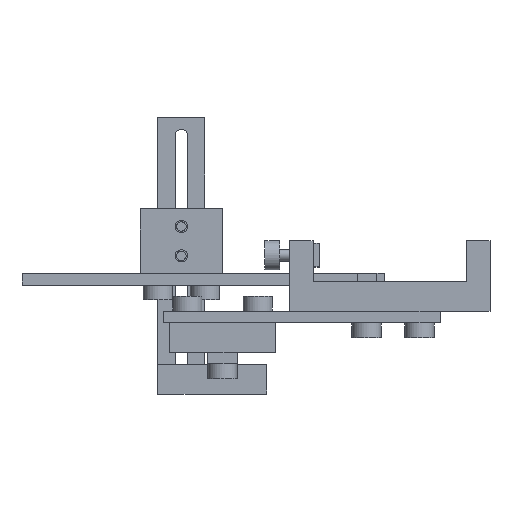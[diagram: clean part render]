
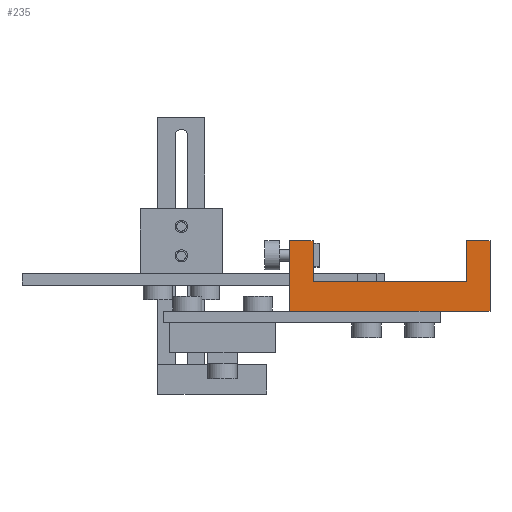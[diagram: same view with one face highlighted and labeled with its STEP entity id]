
A CAD part, top view. The second image highlights one B-rep face of the part: STEP entity #235.
In plain terms, the highlighted planar face has unit normal (0, 0, 1).
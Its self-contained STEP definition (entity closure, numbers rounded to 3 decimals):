
#119 = EDGE_CURVE('',#120,#122,#124,.T.);
#120 = VERTEX_POINT('',#121);
#121 = CARTESIAN_POINT('',(33.,-10.,125.));
#122 = VERTEX_POINT('',#123);
#123 = CARTESIAN_POINT('',(33.,14.,125.));
#124 = SURFACE_CURVE('',#125,(#129,#141),.PCURVE_S1.);
#125 = LINE('',#126,#127);
#126 = CARTESIAN_POINT('',(33.,-10.,125.));
#127 = VECTOR('',#128,1.);
#128 = DIRECTION('',(-0.,1.,-0.));
#129 = PCURVE('',#130,#135);
#130 = PLANE('',#131);
#131 = AXIS2_PLACEMENT_3D('',#132,#133,#134);
#132 = CARTESIAN_POINT('',(33.,-10.,115.));
#133 = DIRECTION('',(-1.,-0.,-0.));
#134 = DIRECTION('',(0.,0.,-1.));
#135 = DEFINITIONAL_REPRESENTATION('',(#136),#140);
#136 = LINE('',#137,#138);
#137 = CARTESIAN_POINT('',(-10.,-0.));
#138 = VECTOR('',#139,1.);
#139 = DIRECTION('',(-0.,-1.));
#140 = ( GEOMETRIC_REPRESENTATION_CONTEXT(2)
PARAMETRIC_REPRESENTATION_CONTEXT() REPRESENTATION_CONTEXT('2D SPACE',''
  ) );
#141 = PCURVE('',#142,#147);
#142 = PLANE('',#143);
#143 = AXIS2_PLACEMENT_3D('',#144,#145,#146);
#144 = CARTESIAN_POINT('',(33.,-10.,125.));
#145 = DIRECTION('',(-0.,-0.,1.));
#146 = DIRECTION('',(1.,0.,0.));
#147 = DEFINITIONAL_REPRESENTATION('',(#148),#152);
#148 = LINE('',#149,#150);
#149 = CARTESIAN_POINT('',(0.,-0.));
#150 = VECTOR('',#151,1.);
#151 = DIRECTION('',(-0.,1.));
#152 = ( GEOMETRIC_REPRESENTATION_CONTEXT(2)
PARAMETRIC_REPRESENTATION_CONTEXT() REPRESENTATION_CONTEXT('2D SPACE',''
  ) );
#170 = PLANE('',#171);
#171 = AXIS2_PLACEMENT_3D('',#172,#173,#174);
#172 = CARTESIAN_POINT('',(33.,-10.,115.));
#173 = DIRECTION('',(-0.,1.,0.));
#174 = DIRECTION('',(0.,0.,-1.));
#224 = PLANE('',#225);
#225 = AXIS2_PLACEMENT_3D('',#226,#227,#228);
#226 = CARTESIAN_POINT('',(33.,14.,115.));
#227 = DIRECTION('',(-0.,1.,0.));
#228 = DIRECTION('',(0.,0.,-1.));
#235 = ADVANCED_FACE('',(#236),#142,.T.);
#236 = FACE_BOUND('',#237,.F.);
#237 = EDGE_LOOP('',(#238,#239,#262,#290,#318,#346,#374,#402));
#238 = ORIENTED_EDGE('',*,*,#119,.F.);
#239 = ORIENTED_EDGE('',*,*,#240,.T.);
#240 = EDGE_CURVE('',#120,#241,#243,.T.);
#241 = VERTEX_POINT('',#242);
#242 = CARTESIAN_POINT('',(-35.2,-10.,125.));
#243 = SURFACE_CURVE('',#244,(#248,#255),.PCURVE_S1.);
#244 = LINE('',#245,#246);
#245 = CARTESIAN_POINT('',(33.,-10.,125.));
#246 = VECTOR('',#247,1.);
#247 = DIRECTION('',(-1.,-0.,0.));
#248 = PCURVE('',#142,#249);
#249 = DEFINITIONAL_REPRESENTATION('',(#250),#254);
#250 = LINE('',#251,#252);
#251 = CARTESIAN_POINT('',(0.,-0.));
#252 = VECTOR('',#253,1.);
#253 = DIRECTION('',(-1.,0.));
#254 = ( GEOMETRIC_REPRESENTATION_CONTEXT(2)
PARAMETRIC_REPRESENTATION_CONTEXT() REPRESENTATION_CONTEXT('2D SPACE',''
  ) );
#255 = PCURVE('',#170,#256);
#256 = DEFINITIONAL_REPRESENTATION('',(#257),#261);
#257 = LINE('',#258,#259);
#258 = CARTESIAN_POINT('',(-10.,-0.));
#259 = VECTOR('',#260,1.);
#260 = DIRECTION('',(-0.,1.));
#261 = ( GEOMETRIC_REPRESENTATION_CONTEXT(2)
PARAMETRIC_REPRESENTATION_CONTEXT() REPRESENTATION_CONTEXT('2D SPACE',''
  ) );
#262 = ORIENTED_EDGE('',*,*,#263,.T.);
#263 = EDGE_CURVE('',#241,#264,#266,.T.);
#264 = VERTEX_POINT('',#265);
#265 = CARTESIAN_POINT('',(-35.2,14.,125.));
#266 = SURFACE_CURVE('',#267,(#271,#278),.PCURVE_S1.);
#267 = LINE('',#268,#269);
#268 = CARTESIAN_POINT('',(-35.2,-10.,125.));
#269 = VECTOR('',#270,1.);
#270 = DIRECTION('',(-0.,1.,-0.));
#271 = PCURVE('',#142,#272);
#272 = DEFINITIONAL_REPRESENTATION('',(#273),#277);
#273 = LINE('',#274,#275);
#274 = CARTESIAN_POINT('',(-68.2,0.));
#275 = VECTOR('',#276,1.);
#276 = DIRECTION('',(-0.,1.));
#277 = ( GEOMETRIC_REPRESENTATION_CONTEXT(2)
PARAMETRIC_REPRESENTATION_CONTEXT() REPRESENTATION_CONTEXT('2D SPACE',''
  ) );
#278 = PCURVE('',#279,#284);
#279 = PLANE('',#280);
#280 = AXIS2_PLACEMENT_3D('',#281,#282,#283);
#281 = CARTESIAN_POINT('',(-35.2,-10.,115.));
#282 = DIRECTION('',(-1.,-0.,-0.));
#283 = DIRECTION('',(0.,0.,-1.));
#284 = DEFINITIONAL_REPRESENTATION('',(#285),#289);
#285 = LINE('',#286,#287);
#286 = CARTESIAN_POINT('',(-10.,-0.));
#287 = VECTOR('',#288,1.);
#288 = DIRECTION('',(-0.,-1.));
#289 = ( GEOMETRIC_REPRESENTATION_CONTEXT(2)
PARAMETRIC_REPRESENTATION_CONTEXT() REPRESENTATION_CONTEXT('2D SPACE',''
  ) );
#290 = ORIENTED_EDGE('',*,*,#291,.F.);
#291 = EDGE_CURVE('',#292,#264,#294,.T.);
#292 = VERTEX_POINT('',#293);
#293 = CARTESIAN_POINT('',(-27.2,14.,125.));
#294 = SURFACE_CURVE('',#295,(#299,#306),.PCURVE_S1.);
#295 = LINE('',#296,#297);
#296 = CARTESIAN_POINT('',(-27.2,14.,125.));
#297 = VECTOR('',#298,1.);
#298 = DIRECTION('',(-1.,-0.,0.));
#299 = PCURVE('',#142,#300);
#300 = DEFINITIONAL_REPRESENTATION('',(#301),#305);
#301 = LINE('',#302,#303);
#302 = CARTESIAN_POINT('',(-60.2,24.));
#303 = VECTOR('',#304,1.);
#304 = DIRECTION('',(-1.,0.));
#305 = ( GEOMETRIC_REPRESENTATION_CONTEXT(2)
PARAMETRIC_REPRESENTATION_CONTEXT() REPRESENTATION_CONTEXT('2D SPACE',''
  ) );
#306 = PCURVE('',#307,#312);
#307 = PLANE('',#308);
#308 = AXIS2_PLACEMENT_3D('',#309,#310,#311);
#309 = CARTESIAN_POINT('',(-27.2,14.,115.));
#310 = DIRECTION('',(-0.,1.,0.));
#311 = DIRECTION('',(0.,0.,-1.));
#312 = DEFINITIONAL_REPRESENTATION('',(#313),#317);
#313 = LINE('',#314,#315);
#314 = CARTESIAN_POINT('',(-10.,-0.));
#315 = VECTOR('',#316,1.);
#316 = DIRECTION('',(-0.,1.));
#317 = ( GEOMETRIC_REPRESENTATION_CONTEXT(2)
PARAMETRIC_REPRESENTATION_CONTEXT() REPRESENTATION_CONTEXT('2D SPACE',''
  ) );
#318 = ORIENTED_EDGE('',*,*,#319,.F.);
#319 = EDGE_CURVE('',#320,#292,#322,.T.);
#320 = VERTEX_POINT('',#321);
#321 = CARTESIAN_POINT('',(-27.2,0.,125.));
#322 = SURFACE_CURVE('',#323,(#327,#334),.PCURVE_S1.);
#323 = LINE('',#324,#325);
#324 = CARTESIAN_POINT('',(-27.2,-0.5,125.));
#325 = VECTOR('',#326,1.);
#326 = DIRECTION('',(-0.,1.,0.));
#327 = PCURVE('',#142,#328);
#328 = DEFINITIONAL_REPRESENTATION('',(#329),#333);
#329 = LINE('',#330,#331);
#330 = CARTESIAN_POINT('',(-60.2,9.5));
#331 = VECTOR('',#332,1.);
#332 = DIRECTION('',(0.,1.));
#333 = ( GEOMETRIC_REPRESENTATION_CONTEXT(2)
PARAMETRIC_REPRESENTATION_CONTEXT() REPRESENTATION_CONTEXT('2D SPACE',''
  ) );
#334 = PCURVE('',#335,#340);
#335 = PLANE('',#336);
#336 = AXIS2_PLACEMENT_3D('',#337,#338,#339);
#337 = CARTESIAN_POINT('',(-27.2,-0.5,115.));
#338 = DIRECTION('',(-1.,-0.,0.));
#339 = DIRECTION('',(0.,0.,-1.));
#340 = DEFINITIONAL_REPRESENTATION('',(#341),#345);
#341 = LINE('',#342,#343);
#342 = CARTESIAN_POINT('',(-10.,-0.));
#343 = VECTOR('',#344,1.);
#344 = DIRECTION('',(-0.,-1.));
#345 = ( GEOMETRIC_REPRESENTATION_CONTEXT(2)
PARAMETRIC_REPRESENTATION_CONTEXT() REPRESENTATION_CONTEXT('2D SPACE',''
  ) );
#346 = ORIENTED_EDGE('',*,*,#347,.F.);
#347 = EDGE_CURVE('',#348,#320,#350,.T.);
#348 = VERTEX_POINT('',#349);
#349 = CARTESIAN_POINT('',(25.,0.,125.));
#350 = SURFACE_CURVE('',#351,(#355,#362),.PCURVE_S1.);
#351 = LINE('',#352,#353);
#352 = CARTESIAN_POINT('',(33.,0.,125.));
#353 = VECTOR('',#354,1.);
#354 = DIRECTION('',(-1.,-0.,0.));
#355 = PCURVE('',#142,#356);
#356 = DEFINITIONAL_REPRESENTATION('',(#357),#361);
#357 = LINE('',#358,#359);
#358 = CARTESIAN_POINT('',(0.,10.));
#359 = VECTOR('',#360,1.);
#360 = DIRECTION('',(-1.,0.));
#361 = ( GEOMETRIC_REPRESENTATION_CONTEXT(2)
PARAMETRIC_REPRESENTATION_CONTEXT() REPRESENTATION_CONTEXT('2D SPACE',''
  ) );
#362 = PCURVE('',#363,#368);
#363 = PLANE('',#364);
#364 = AXIS2_PLACEMENT_3D('',#365,#366,#367);
#365 = CARTESIAN_POINT('',(33.,0.,115.));
#366 = DIRECTION('',(-0.,1.,0.));
#367 = DIRECTION('',(0.,0.,-1.));
#368 = DEFINITIONAL_REPRESENTATION('',(#369),#373);
#369 = LINE('',#370,#371);
#370 = CARTESIAN_POINT('',(-10.,-0.));
#371 = VECTOR('',#372,1.);
#372 = DIRECTION('',(-0.,1.));
#373 = ( GEOMETRIC_REPRESENTATION_CONTEXT(2)
PARAMETRIC_REPRESENTATION_CONTEXT() REPRESENTATION_CONTEXT('2D SPACE',''
  ) );
#374 = ORIENTED_EDGE('',*,*,#375,.T.);
#375 = EDGE_CURVE('',#348,#376,#378,.T.);
#376 = VERTEX_POINT('',#377);
#377 = CARTESIAN_POINT('',(25.,14.,125.));
#378 = SURFACE_CURVE('',#379,(#383,#390),.PCURVE_S1.);
#379 = LINE('',#380,#381);
#380 = CARTESIAN_POINT('',(25.,-0.5,125.));
#381 = VECTOR('',#382,1.);
#382 = DIRECTION('',(-0.,1.,0.));
#383 = PCURVE('',#142,#384);
#384 = DEFINITIONAL_REPRESENTATION('',(#385),#389);
#385 = LINE('',#386,#387);
#386 = CARTESIAN_POINT('',(-8.,9.5));
#387 = VECTOR('',#388,1.);
#388 = DIRECTION('',(0.,1.));
#389 = ( GEOMETRIC_REPRESENTATION_CONTEXT(2)
PARAMETRIC_REPRESENTATION_CONTEXT() REPRESENTATION_CONTEXT('2D SPACE',''
  ) );
#390 = PCURVE('',#391,#396);
#391 = PLANE('',#392);
#392 = AXIS2_PLACEMENT_3D('',#393,#394,#395);
#393 = CARTESIAN_POINT('',(25.,-0.5,115.));
#394 = DIRECTION('',(-1.,-0.,0.));
#395 = DIRECTION('',(0.,0.,-1.));
#396 = DEFINITIONAL_REPRESENTATION('',(#397),#401);
#397 = LINE('',#398,#399);
#398 = CARTESIAN_POINT('',(-10.,-0.));
#399 = VECTOR('',#400,1.);
#400 = DIRECTION('',(-0.,-1.));
#401 = ( GEOMETRIC_REPRESENTATION_CONTEXT(2)
PARAMETRIC_REPRESENTATION_CONTEXT() REPRESENTATION_CONTEXT('2D SPACE',''
  ) );
#402 = ORIENTED_EDGE('',*,*,#403,.F.);
#403 = EDGE_CURVE('',#122,#376,#404,.T.);
#404 = SURFACE_CURVE('',#405,(#409,#416),.PCURVE_S1.);
#405 = LINE('',#406,#407);
#406 = CARTESIAN_POINT('',(33.,14.,125.));
#407 = VECTOR('',#408,1.);
#408 = DIRECTION('',(-1.,-0.,0.));
#409 = PCURVE('',#142,#410);
#410 = DEFINITIONAL_REPRESENTATION('',(#411),#415);
#411 = LINE('',#412,#413);
#412 = CARTESIAN_POINT('',(0.,24.));
#413 = VECTOR('',#414,1.);
#414 = DIRECTION('',(-1.,0.));
#415 = ( GEOMETRIC_REPRESENTATION_CONTEXT(2)
PARAMETRIC_REPRESENTATION_CONTEXT() REPRESENTATION_CONTEXT('2D SPACE',''
  ) );
#416 = PCURVE('',#224,#417);
#417 = DEFINITIONAL_REPRESENTATION('',(#418),#422);
#418 = LINE('',#419,#420);
#419 = CARTESIAN_POINT('',(-10.,-0.));
#420 = VECTOR('',#421,1.);
#421 = DIRECTION('',(-0.,1.));
#422 = ( GEOMETRIC_REPRESENTATION_CONTEXT(2)
PARAMETRIC_REPRESENTATION_CONTEXT() REPRESENTATION_CONTEXT('2D SPACE',''
  ) );
